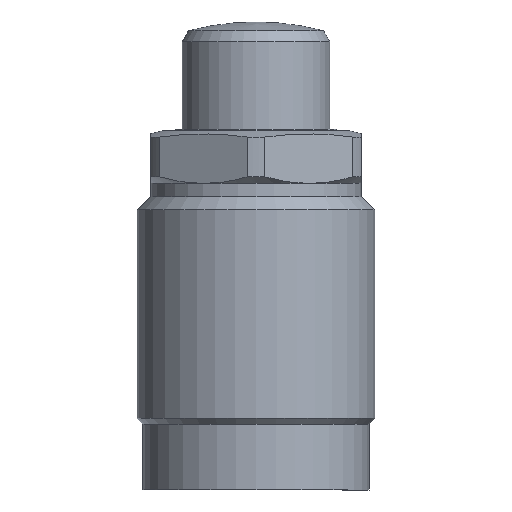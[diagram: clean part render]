
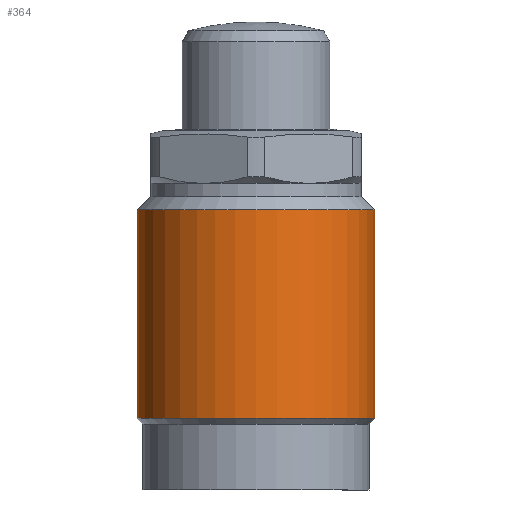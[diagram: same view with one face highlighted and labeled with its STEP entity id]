
A CAD part, front view. The second image highlights one B-rep face of the part: STEP entity #364.
In plain terms, the highlighted cylindrical face has radius 18 mm (diameter 36 mm), a partial arc.
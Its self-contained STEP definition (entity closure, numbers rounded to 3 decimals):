
#5 = EDGE_CURVE ( 'NONE', #1667, #1672, #1860, .T. ) ;
#6 = EDGE_CURVE ( 'NONE', #1670, #1665, #1865, .T. ) ;
#31 = EDGE_CURVE ( 'NONE', #1667, #1670, #2015, .T. ) ;
#32 = EDGE_CURVE ( 'NONE', #1672, #1665, #2017, .T. ) ;
#146 = AXIS2_PLACEMENT_3D ( 'NONE', #1270, #1267, #1273 ) ;
#364 = ADVANCED_FACE ( 'NONE', ( #1269 ), #1272, .T. ) ;
#630 = CARTESIAN_POINT ( 'NONE',  ( 18., 0., -12. ) ) ;
#632 = CARTESIAN_POINT ( 'NONE',  ( -18., 0., -43.65 ) ) ;
#635 = CARTESIAN_POINT ( 'NONE',  ( 18., 0., -43.65 ) ) ;
#637 = CARTESIAN_POINT ( 'NONE',  ( -18., 0., -12. ) ) ;
#1267 = DIRECTION ( 'NONE',  ( 0., 0., 1. ) ) ;
#1269 = FACE_OUTER_BOUND ( 'NONE', #1832, .T. ) ;
#1270 = CARTESIAN_POINT ( 'NONE',  ( 0., 0., 14.451 ) ) ;
#1272 = CYLINDRICAL_SURFACE ( 'NONE', #146, 18. ) ;
#1273 = DIRECTION ( 'NONE',  ( 1., 0., 0. ) ) ;
#1398 = CARTESIAN_POINT ( 'NONE',  ( 0., 0., -43.65 ) ) ;
#1399 = DIRECTION ( 'NONE',  ( 0., 0., 1. ) ) ;
#1400 = DIRECTION ( 'NONE',  ( 1., 0., 0. ) ) ;
#1402 = CARTESIAN_POINT ( 'NONE',  ( 0., 0., -12. ) ) ;
#1403 = DIRECTION ( 'NONE',  ( 0., 0., 1. ) ) ;
#1404 = DIRECTION ( 'NONE',  ( 1., 0., 0. ) ) ;
#1665 = VERTEX_POINT ( 'NONE', #630 ) ;
#1667 = VERTEX_POINT ( 'NONE', #632 ) ;
#1670 = VERTEX_POINT ( 'NONE', #635 ) ;
#1672 = VERTEX_POINT ( 'NONE', #637 ) ;
#1832 = EDGE_LOOP ( 'NONE', ( #2183, #2287, #2306, #2262 ) ) ;
#1858 = CARTESIAN_POINT ( 'NONE',  ( -18., 0., 14.451 ) ) ;
#1860 = LINE ( 'NONE', #1858, #1982 ) ;
#1864 = DIRECTION ( 'NONE',  ( 0., 0., 1. ) ) ;
#1865 = LINE ( 'NONE', #1867, #1985 ) ;
#1867 = CARTESIAN_POINT ( 'NONE',  ( 18., 0., 14.451 ) ) ;
#1868 = DIRECTION ( 'NONE',  ( 0., 0., 1. ) ) ;
#1982 = VECTOR ( 'NONE', #1864, 1000. ) ;
#1985 = VECTOR ( 'NONE', #1868, 1000. ) ;
#2015 = CIRCLE ( 'NONE', #2018, 18. ) ;
#2017 = CIRCLE ( 'NONE', #2020, 18. ) ;
#2018 = AXIS2_PLACEMENT_3D ( 'NONE', #1398, #1399, #1400 ) ;
#2020 = AXIS2_PLACEMENT_3D ( 'NONE', #1402, #1403, #1404 ) ;
#2183 = ORIENTED_EDGE ( 'NONE', *, *, #5, .F. ) ;
#2262 = ORIENTED_EDGE ( 'NONE', *, *, #32, .F. ) ;
#2287 = ORIENTED_EDGE ( 'NONE', *, *, #31, .T. ) ;
#2306 = ORIENTED_EDGE ( 'NONE', *, *, #6, .T. ) ;
